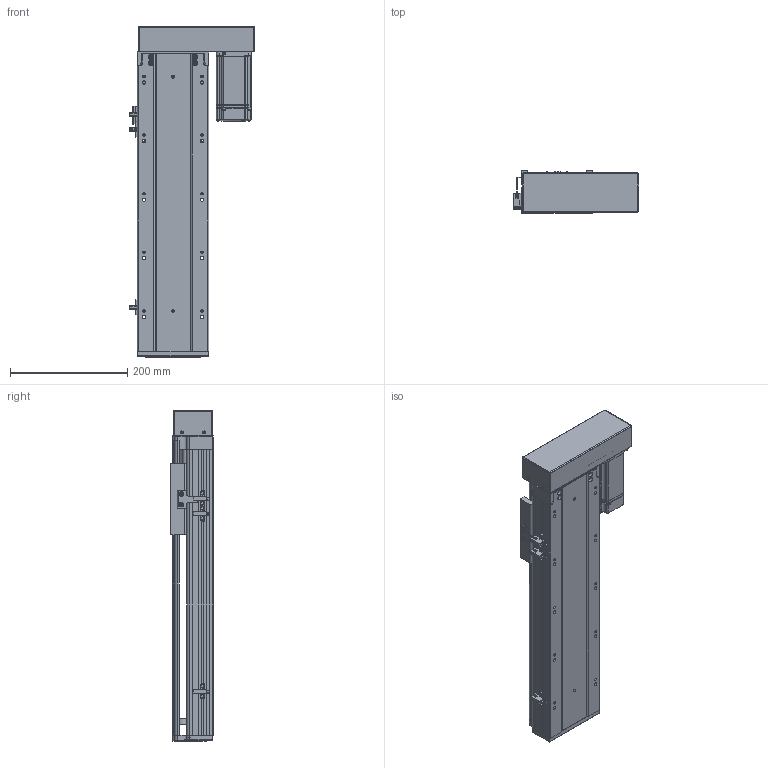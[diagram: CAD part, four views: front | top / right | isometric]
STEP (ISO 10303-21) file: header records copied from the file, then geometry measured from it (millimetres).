
FILE_DESCRIPTION (( 'STEP AP203' ), '1' );
FILE_NAME ('RY120-L2020-300-RK.SLDASM_300.step', '2021-03-12T07:13:38', ( '盈信电脑' ), ( '东莞市道滘镇水果街19号' ), 'SwSTEP 2.0', 'SolidWorks 2012', '' );
FILE_SCHEMA (( 'CONFIG_CONTROL_DESIGN' ));
Products named in the file (15): RY120-300-RK蛌殏倰第奻裔啣; RY120-300-RK蛌殏倰第菁釱; RY120蛌殏萇儂欶; 侂狟400W侜督萇儂; RY120-L2020-300-RK.SLDASM_300; RY120-400W萇儂傷-酘衵殏_450; 15; RY120外置感应片(140共用）; RY120酘殏萇儂假蚾啣; RY120转拆电端丝杆支撑座(20丝杆，7002轴承); 覜茼ん672; 滅袉蝶18-24; 滅袉蝶18-10; RY120綴裔啣; RY120臏賑輸(20蹟譫)
Assembly tree (17 placements, depth 4):
  RY120-L2020-300-RK.SLDASM_300
    RY120-300-RK蛌殏倰第菁釱
    RY120-300-RK蛌殏倰第奻裔啣
    RY120臏賑輸(20蹟譫)
    RY120綴裔啣
    覜茼ん672  x3
    滅袉蝶18-10
    滅袉蝶18-24  x2
    RY120外置感应片(140共用）
    RY120转拆电端丝杆支撑座(20丝杆，7002轴承)
    RY120-400W萇儂傷-酘衵殏_450
      RY120酘殏萇儂假蚾啣
      侂狟400W侜督萇儂
        15
      RY120蛌殏萇儂欶
Bounding box: 214.2 x 73 x 564 mm (x, y, z)
Volume: 2014278.7 mm3; surface area: 709393.4 mm2
Topology: 16 solids, 16 shells, 2296 faces, 6279 edges, 4026 vertices
Faces by surface type: plane 1196, cylinder 808, cone 187, bspline 105
Entity records: 75139 total; most frequent: CARTESIAN_POINT 20645, ORIENTED_EDGE 11302, DIRECTION 10507, EDGE_CURVE 5651, VERTEX_POINT 3694, LINE 3601, VECTOR 3601, AXIS2_PLACEMENT_3D 3453
